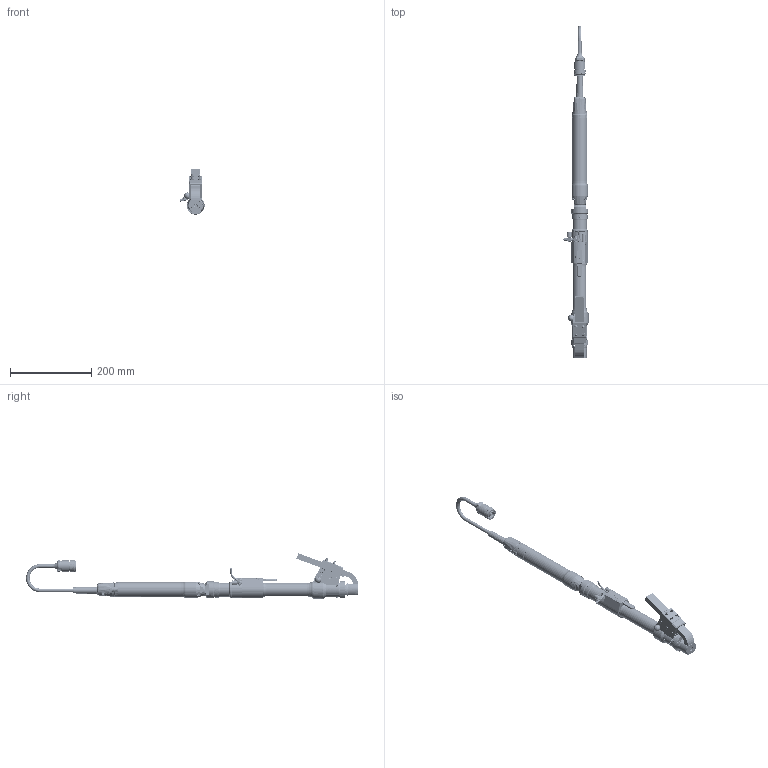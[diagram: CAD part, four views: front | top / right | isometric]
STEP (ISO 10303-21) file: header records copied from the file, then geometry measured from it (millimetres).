
FILE_DESCRIPTION(/* description */ (''),/* implementation_level */ '2;1');
FILE_NAME(/* name */ 'U:\In_Arbeit\MKT\MKT-HSM.stp',/* time_stamp */ '2016-04-14T14:06:37+02:00',/* author */ ('wolf'),/* organization */ (''),/* preprocessor_version */ 'ST-DEVELOPER v15.2',/* originating_system */ 'Autodesk Inventor 2014',/* authorisation */ '');
FILE_SCHEMA (('AUTOMOTIVE_DESIGN { 1 0 10303 214 3 1 1 }'));
Length unit declared in the file: centimetre
Products named in the file (1): MKT-HSM
Bounding box: 62.02 x 817.43 x 111.59 mm (x, y, z)
Volume: 81995.8 mm3; surface area: 346845.2 mm2
Topology: 76 solids, 115 shells, 6852 faces, 18406 edges, 11797 vertices
Faces by surface type: plane 3250, cylinder 1779, cone 762, bspline 687, torus 304, sphere 70
Full cylindrical faces by diameter (mm): 0.6 x8, 0.74 x8, 0.8 x11, 1 x4, 1.02 x16, 1.1 x4, 1.16 x2, 1.17 x8, 1.23 x8, 1.3 x6, 1.5 x9, 1.6 x11, 1.69 x4, 1.97 x16, 2 x14, 2.013 x4, 2.02 x2, 2.04 x8, 2.06 x4, 2.3 x3, 2.4 x4, 2.459 x8, 2.5 x13, 2.51 x2, 2.56 x20, 2.58 x8, 2.6 x8, 2.69 x8, 2.729 x1, 2.8 x3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
Entity records: 256923 total; most frequent: CARTESIAN_POINT 91188, DIRECTION 32399, ORIENTED_EDGE 32384, EDGE_CURVE 16200, AXIS2_PLACEMENT_3D 13142, VERTEX_POINT 11100, EDGE_LOOP 9100, ADVANCED_FACE 6848
